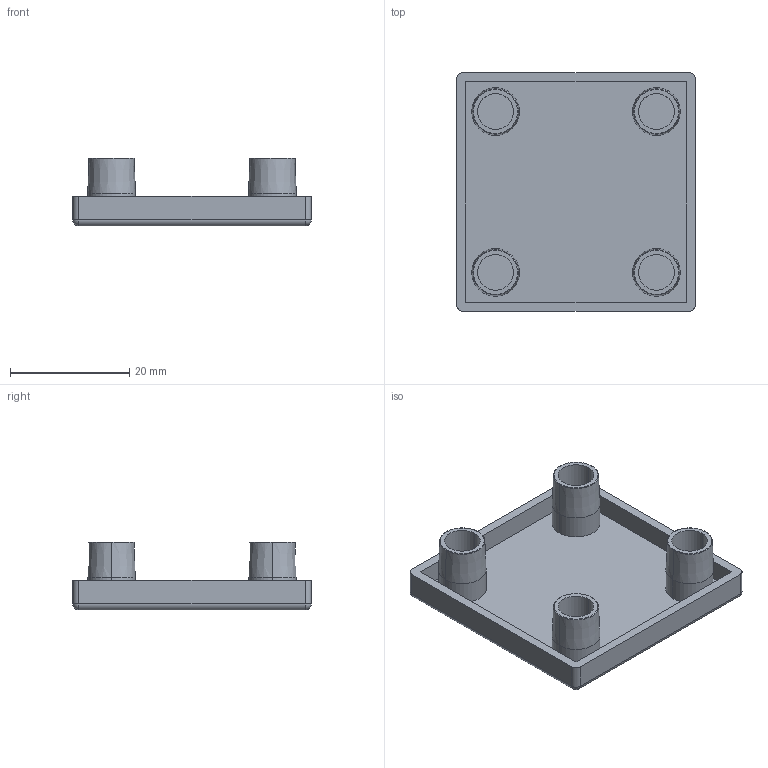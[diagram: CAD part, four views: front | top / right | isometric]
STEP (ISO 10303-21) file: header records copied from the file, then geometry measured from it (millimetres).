
FILE_DESCRIPTION (( 'STEP AP203' ), '1' );
FILE_NAME ('DEC4040.STEP', '2022-06-24T01:44:32', ( '' ), ( '' ), 'SwSTEP 2.0', 'SolidWorks 2017', '' );
FILE_SCHEMA (( 'CONFIG_CONTROL_DESIGN' ));
Length unit declared in the file: millimetre
Products named in the file (1): DEC4040
Bounding box: 40 x 40 x 11.4 mm (x, y, z)
Volume: 3981.9 mm3; surface area: 6142.9 mm2
Topology: 1 solids, 1 shells, 63 faces, 132 edges, 76 vertices
Faces by surface type: cylinder 24, plane 19, torus 8, cone 8, sphere 4
Entity records: 1727 total; most frequent: DIRECTION 328, CARTESIAN_POINT 268, ORIENTED_EDGE 256, AXIS2_PLACEMENT_3D 136, EDGE_CURVE 128, VERTEX_POINT 76, EDGE_LOOP 72, CIRCLE 72
